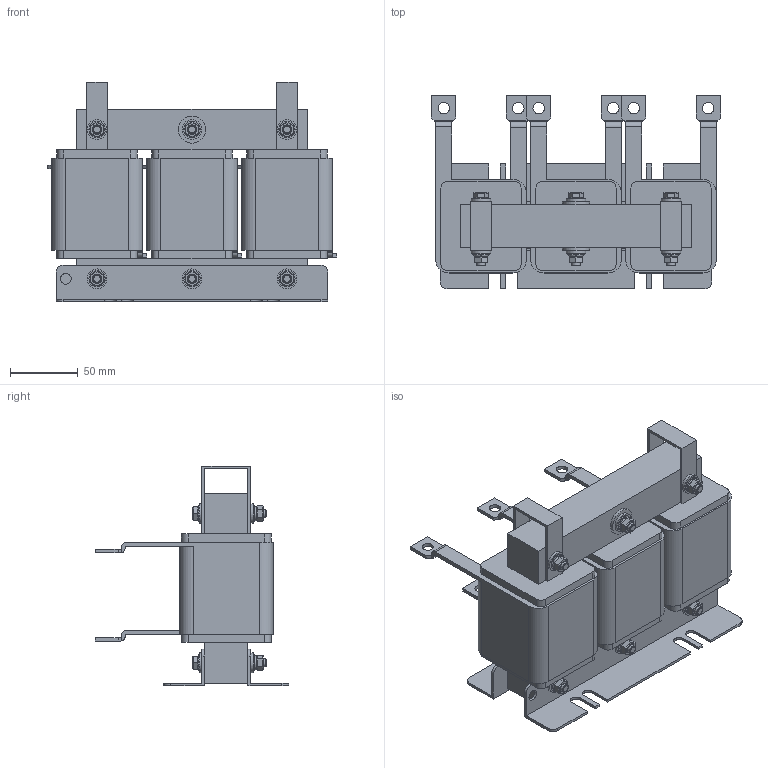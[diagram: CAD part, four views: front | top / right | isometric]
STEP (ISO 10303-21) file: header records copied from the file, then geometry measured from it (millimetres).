
FILE_DESCRIPTION(('STEP AP203'), '1');
FILE_NAME('栖闉罻 _ IMF-37_75-4', '', ('UNSPECIFIED'), ('UNSPECIFIED'), 'ASCON STEP Converter 1.6', 'ASCON Math Kernel', '');
FILE_SCHEMA(('CONFIG_CONTROL_DESIGN'));
Length unit declared in the file: millimetre
Products named in the file (13): IMF-37_75-4
Assembly tree (59 placements, depth 2):
  IMF-37_75-4
    IMF-37_75-4
    IMF-37_75-4  x2
    IMF-37_75-4  x6
    IMF-37_75-4  x3
    IMF-37_75-4
    IMF-37_75-4  x2
    IMF-37_75-4  x2
    IMF-37_75-4  x12
    IMF-37_75-4  x12
    IMF-37_75-4  x6
    IMF-37_75-4  x6
    IMF-37_75-4  x6
Bounding box: 213 x 142.5 x 162 mm (x, y, z)
Volume: 1466683.4 mm3; surface area: 268705.2 mm2
Topology: 59 solids, 59 shells, 708 faces, 1578 edges, 994 vertices
Faces by surface type: plane 514, cylinder 164, cone 18, torus 12
Full cylindrical faces by diameter (mm): 6 x54, 8 x2, 8.4 x6, 12 x12, 14.6 x12, 20 x2
Entity records: 7229 total; most frequent: CARTESIAN_POINT 1208, DIRECTION 962, ORIENTED_EDGE 806, EDGE_CURVE 403, AXIS2_PLACEMENT_3D 333, LINE 296, VECTOR 296, VERTEX_POINT 275
